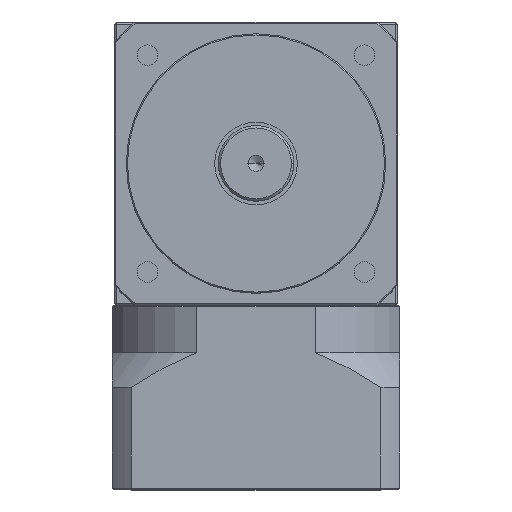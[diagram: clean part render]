
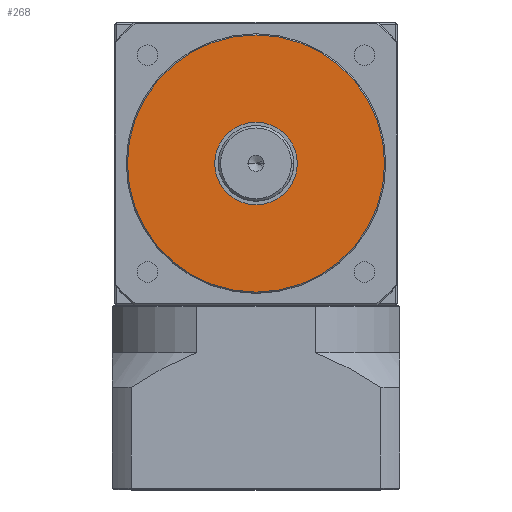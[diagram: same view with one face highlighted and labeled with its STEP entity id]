
A CAD part, top view. The second image highlights one B-rep face of the part: STEP entity #268.
In plain terms, the highlighted planar face has unit normal (0, 0, 1).
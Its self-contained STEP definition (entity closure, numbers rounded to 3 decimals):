
#158 = DIRECTION ( 'NONE',  ( 1., 0., 0. ) ) ;
#159 = DIRECTION ( 'NONE',  ( 0., 0., 1. ) ) ;
#161 = PLANE ( 'NONE',  #6162 ) ;
#164 = CARTESIAN_POINT ( 'NONE',  ( 0., 0., 141. ) ) ;
#268 = ADVANCED_FACE ( 'NONE', ( #3872, #3881 ), #161, .T. ) ;
#760 = VERTEX_POINT ( 'NONE', #1992 ) ;
#793 = VERTEX_POINT ( 'NONE', #2025 ) ;
#818 = VERTEX_POINT ( 'NONE', #2050 ) ;
#983 = VERTEX_POINT ( 'NONE', #2215 ) ;
#1169 = ORIENTED_EDGE ( 'NONE', *, *, #4309, .T. ) ;
#1188 = ORIENTED_EDGE ( 'NONE', *, *, #4344, .T. ) ;
#1191 = ORIENTED_EDGE ( 'NONE', *, *, #4345, .F. ) ;
#1210 = ORIENTED_EDGE ( 'NONE', *, *, #4484, .F. ) ;
#1229 = EDGE_LOOP ( 'NONE', ( #1191, #1210 ) ) ;
#1239 = EDGE_LOOP ( 'NONE', ( #1188, #1169 ) ) ;
#1992 = CARTESIAN_POINT ( 'NONE',  ( 17.5, 0., 141. ) ) ;
#2025 = CARTESIAN_POINT ( 'NONE',  ( 54.5, 0., 141. ) ) ;
#2050 = CARTESIAN_POINT ( 'NONE',  ( -54.5, 0., 141. ) ) ;
#2215 = CARTESIAN_POINT ( 'NONE',  ( -17.5, 0., 141. ) ) ;
#2700 = CARTESIAN_POINT ( 'NONE',  ( 0., 0., 141. ) ) ;
#2701 = DIRECTION ( 'NONE',  ( 0., 0., 1. ) ) ;
#2702 = DIRECTION ( 'NONE',  ( 1., 0., 0. ) ) ;
#2846 = CARTESIAN_POINT ( 'NONE',  ( 0., 0., 141. ) ) ;
#2847 = DIRECTION ( 'NONE',  ( 0., 0., 1. ) ) ;
#2848 = DIRECTION ( 'NONE',  ( 1., 0., 0. ) ) ;
#2850 = CARTESIAN_POINT ( 'NONE',  ( 0., 0., 141. ) ) ;
#2852 = DIRECTION ( 'NONE',  ( 0., 0., 1. ) ) ;
#2854 = DIRECTION ( 'NONE',  ( 1., 0., 0. ) ) ;
#3872 = FACE_OUTER_BOUND ( 'NONE', #1239, .T. ) ;
#3881 = FACE_BOUND ( 'NONE', #1229, .T. ) ;
#4125 = CIRCLE ( 'NONE', #6608, 54.5 ) ;
#4165 = CIRCLE ( 'NONE', #6588, 54.5 ) ;
#4172 = CIRCLE ( 'NONE', #6587, 17.5 ) ;
#4309 = EDGE_CURVE ( 'NONE', #793, #818, #4125, .T. ) ;
#4344 = EDGE_CURVE ( 'NONE', #818, #793, #4165, .T. ) ;
#4345 = EDGE_CURVE ( 'NONE', #983, #760, #4172, .T. ) ;
#4405 = AXIS2_PLACEMENT_3D ( 'NONE', #4740, #4741, #4742 ) ;
#4484 = EDGE_CURVE ( 'NONE', #760, #983, #5549, .T. ) ;
#4740 = CARTESIAN_POINT ( 'NONE',  ( 0., 0., 141. ) ) ;
#4741 = DIRECTION ( 'NONE',  ( 0., 0., 1. ) ) ;
#4742 = DIRECTION ( 'NONE',  ( 1., 0., 0. ) ) ;
#5549 = CIRCLE ( 'NONE', #4405, 17.5 ) ;
#6162 = AXIS2_PLACEMENT_3D ( 'NONE', #164, #159, #158 ) ;
#6587 = AXIS2_PLACEMENT_3D ( 'NONE', #2850, #2852, #2854 ) ;
#6588 = AXIS2_PLACEMENT_3D ( 'NONE', #2846, #2847, #2848 ) ;
#6608 = AXIS2_PLACEMENT_3D ( 'NONE', #2700, #2701, #2702 ) ;
